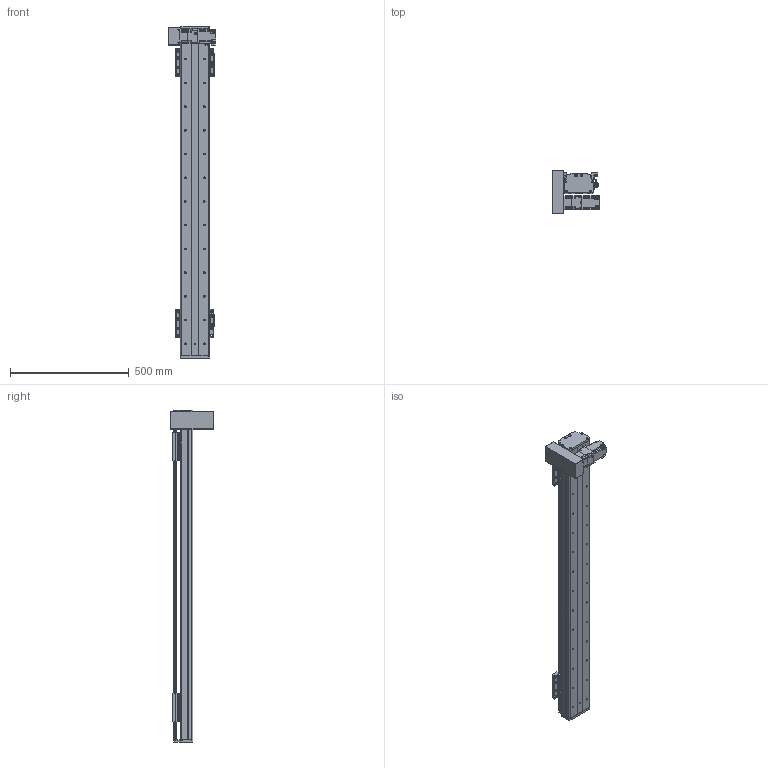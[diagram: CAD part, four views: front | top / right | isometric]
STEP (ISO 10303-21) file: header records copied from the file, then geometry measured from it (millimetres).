
FILE_DESCRIPTION(/* description */ (''),/* implementation_level */ '2;1');
FILE_NAME(/* name */ 'C:\Users\PC\Desktop\3D도면\STEP\DSB125-DL2G-W1100-R.stp',/* time_stamp */ '2018-06-21T14:51:19+09:00',/* author */ ('PC'),/* organization */ (''),/* preprocessor_version */ 'ST-DEVELOPER v16.5',/* originating_system */ 'Autodesk Inventor 2017',/* authorisation */ '');
FILE_SCHEMA (('AUTOMOTIVE_DESIGN { 1 0 10303 214 3 1 1 }'));
Length unit declared in the file: millimetre
Products named in the file (12): DSB125-L-300ST; DSR125-BASE(S-TYPE); DSR125-REAR COVER-R01(170203); DSR125-REAR COVER-R01(170203)_1; DSR125-UP COVER-R01(170203); hg-kr23_; ab0601-p0401200402; 13-BELT COVER; DSR126-SENSOR DOG; pm-y65_step; SENSOR BRACKET(EE-SX674A); DSR125-TABLE(MSA15X)
Assembly tree (16 placements, depth 2):
  DSB125-L-300ST
    DSR125-BASE(S-TYPE)
    DSR125-REAR COVER-R01(170203)
    DSR125-REAR COVER-R01(170203)_1
    DSR125-UP COVER-R01(170203)
    hg-kr23_
    ab0601-p0401200402
    13-BELT COVER
    DSR126-SENSOR DOG
    pm-y65_step  x3
    SENSOR BRACKET(EE-SX674A)  x3
    DSR125-TABLE(MSA15X)  x2
Bounding box: 202.1 x 182 x 1400 mm (x, y, z)
Volume: 5099917.5 mm3; surface area: 1469284.7 mm2
Topology: 17 solids, 22 shells, 1677 faces, 4541 edges, 2994 vertices
Faces by surface type: plane 908, cylinder 639, cone 118, sphere 8, torus 4
Full cylindrical faces by diameter (mm): 2.459 x20, 3.242 x16, 3.5 x6, 4 x1, 4.134 x16, 4.2 x4, 4.3 x1, 4.5 x50, 4.917 x20, 5 x27, 5.3 x1, 5.5 x4, 5.6 x8, 5.8 x4, 5.9 x8, 6 x4, 6.6 x22, 6.647 x28, 7.5 x32, 8.5 x8, 8.7 x1, 11 x22, 14 x1, 16 x2, 17 x1, 20 x1, 47 x1, 50 x3
Entity records: 35670 total; most frequent: CARTESIAN_POINT 6547, DIRECTION 6188, ORIENTED_EDGE 5510, EDGE_CURVE 2760, AXIS2_PLACEMENT_3D 2282, VERTEX_POINT 1969, EDGE_LOOP 1705, LINE 1624
